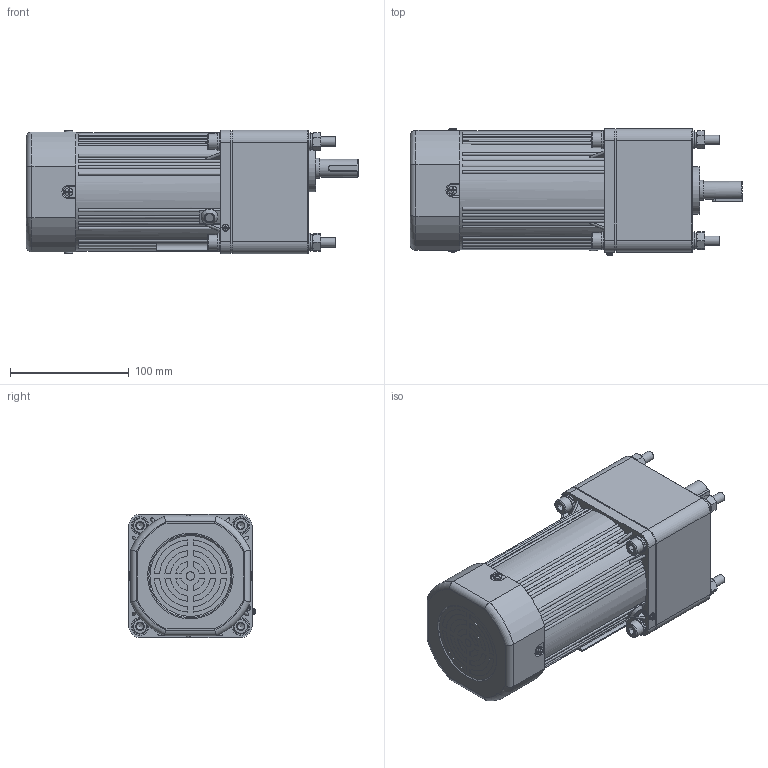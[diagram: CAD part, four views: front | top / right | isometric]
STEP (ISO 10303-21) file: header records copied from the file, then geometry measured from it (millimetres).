
FILE_DESCRIPTION(/* description */ (''),/* implementation_level */ '2;1');
FILE_NAME(/* name */ '6RK160-200CC·RF#6GU3-750K-C·15T.stp',/* time_stamp */ '2024-05-29T18:22:49+08:00',/* author */ (''),/* organization */ (''),/* preprocessor_version */ 'ST-DEVELOPER v18.102',/* originating_system */ 'SIEMENS PLM Software NX 2027',/* authorisation */ '');
FILE_SCHEMA (('AP203_CONFIGURATION_CONTROLLED_3D_DESIGN_OF_MECHANICAL_PARTS_AND_ASSEMBLIES_MIM_LF { 1 0 10303 403 2 1 2}'));
Products named in the file (1): A0_objects
Bounding box: 279.5 x 106.83 x 104.06 mm (x, y, z)
Volume: 2391223.8 mm3; surface area: 363992.3 mm2
Topology: 32 solids, 32 shells, 1812 faces, 4723 edges, 3069 vertices
Faces by surface type: plane 730, cylinder 475, bspline 313, cone 188, torus 78, sphere 28
Full cylindrical faces by diameter (mm): 2.5 x2, 2.6 x2, 2.7 x1, 3 x15, 3.2 x2, 3.5 x4, 3.6 x4, 4 x5, 4.55 x2, 5.1 x2, 5.15 x2, 6 x2, 6.8 x8, 6.985 x4, 7 x2, 7.5 x2, 7.76 x4, 8.4 x8, 8.5 x4, 9 x13, 9.3 x1, 13 x5, 14 x9, 15 x10, 15.5 x2, 17 x1, 17.3 x1, 19 x2, 21 x1, 28 x1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
Entity records: 58320 total; most frequent: CARTESIAN_POINT 15612, ORIENTED_EDGE 8576, DIRECTION 7648, EDGE_CURVE 4288, AXIS2_PLACEMENT_3D 3068, VERTEX_POINT 2922, EDGE_LOOP 2288, ADVANCED_FACE 1812
